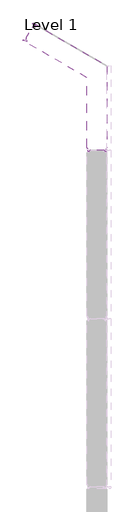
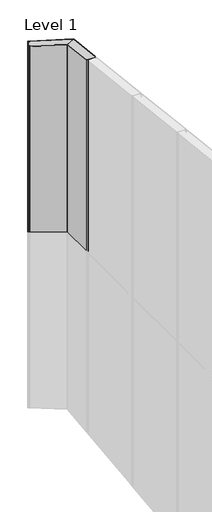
# One storey, part 13 of 16: 1 plate.
"""IFC4 building model written with IfcOpenShell, lengths in millimetres."""

from ifc_helpers import new_model, si_unit, frame, origin, place, context, project, spatial, polyline, circle_curve, ellipse_curve, element, save
from ifc_brep_helpers import plane_surface, cylinder_surface, revolved_surface, advanced_brep

model = new_model("IFC4")

# Units and contexts
model_context = context("Model", 3, world=origin())
ifc_project = project(units=[si_unit("LENGTHUNIT", "METRE", prefix="MILLI")], contexts=[model_context])

# Site, building, storey
site = spatial("IfcSite", under=ifc_project)
building = spatial("IfcBuilding", under=site)
storey = spatial("IfcBuildingStorey", under=building, Name="Level 1", Elevation=0.0)

# Plate
placement = place(None, origin())
element("IfcPlate", 1, ObjectType="TR_C_V_FTV_Corner_Long_B : 120/RAL9006/RAL9002", at=placement, inside=storey, context=model_context, shape_type="AdvancedBrep", body=[
    advanced_brep(
    [(-97.2285384, 7469.8069107, 3000.0), (-93.1155057, 7469.8069107, 3000.0), (-93.1155057, 7469.0069107, 3000.0), (-97.2285384, 7469.0069107, 3000.0), (-100.9215675, 7465.9080913, 3000.0), (-101.6648805, 7461.6925541, 3000.0), (-108.1155057, 7462.2569107, 3000.0), (-108.1155057, 7477.0069107, 3000.0), (-108.8477387, 7478.7746776, 3000.0), (-113.236826, 7483.1637649, 3000.0), (-114.1155057, 7485.2850853, 3000.0), (-114.1155057, 7900.3248798, 3000.0), (-113.3155057, 7900.78676, 3000.0), (-113.3155057, 7485.2850853, 3000.0), (-112.6711406, 7483.7294503, 3000.0), (-108.2820533, 7479.340363, 3000.0), (-107.3155057, 7477.0069107, 3000.0), (-107.3155057, 7462.2569107, 3000.0), (-102.4527267, 7461.8314726, 3000.0), (-101.7094137, 7466.0470099, 3000.0), (-101.7094137, 7466.0470099, 5587.3906863), (-97.2285384, 7469.8069107, 5586.9534885), (-102.4527267, 7461.8314726, 5587.8808651), (-107.3155057, 7462.2569107, 5587.8313955), (-107.3155057, 7477.0069107, 5586.1162792), (-108.2820533, 7479.340363, 5585.8449476), (-112.6711406, 7483.7294503, 5585.3345886), (-113.3155057, 7485.2850853, 5585.1537008), (-113.3155057, 7900.78676, 5536.8395526), (-114.1155057, 7485.2850853, 5585.1537008), (-114.1155057, 7900.3248798, 5536.8932596), (-113.236826, 7483.1637649, 5585.400366), (-108.8477387, 7478.7746776, 5585.9107249), (-108.1155057, 7477.0069107, 5586.1162792), (-108.1155057, 7462.2569107, 5587.8313955), (-101.6648805, 7461.6925541, 5587.8970184), (-100.9215675, 7465.9080913, 5587.4068396), (-97.2285384, 7469.0069107, 5587.0465118), (-93.1155057, 7469.0069107, 5587.0465118), (-93.1155057, 7469.8069107, 5586.9534885)],
    [
        (0, 1),
        (1, 2),
        (2, 3),
        (3, 4, circle_curve(frame((-97.2285384, 7465.2569107, 3000.0), z_axis=(0.0, 0.0, 1.0), x_axis=(0.0, -1.0, 0.0)), 3.75)),
        (4, 5),
        (5, 6, circle_curve(frame((-104.8655057, 7462.2569107, 3000.0), z_axis=(0.0, 0.0, -1.0), x_axis=(0.0, -1.0, 0.0)), 3.25)),
        (6, 7),
        (7, 8, circle_curve(frame((-110.6155057, 7477.0069107, 3000.0), z_axis=(0.0, 0.0, 1.0), x_axis=(0.0, -1.0, 0.0)), 2.5)),
        (8, 9),
        (9, 10, circle_curve(frame((-111.1155057, 7485.2850853, 3000.0), z_axis=(0.0, 0.0, -1.0), x_axis=(0.0, -1.0, 0.0)), 3.0)),
        (10, 11),
        (11, 12),
        (12, 13),
        (13, 14, circle_curve(frame((-111.1155057, 7485.2850853, 3000.0), z_axis=(0.0, 0.0, 1.0), x_axis=(0.0, -1.0, 0.0)), 2.2)),
        (14, 15),
        (15, 16, circle_curve(frame((-110.6155057, 7477.0069107, 3000.0), z_axis=(0.0, 0.0, -1.0), x_axis=(0.0, -1.0, 0.0)), 3.3)),
        (16, 17),
        (17, 18, circle_curve(frame((-104.8655057, 7462.2569107, 3000.0), z_axis=(0.0, 0.0, 1.0), x_axis=(0.0, -1.0, 0.0)), 2.45)),
        (18, 19),
        (19, 0, circle_curve(frame((-97.2285384, 7465.2569107, 3000.0), z_axis=(0.0, 0.0, -1.0), x_axis=(0.0, -1.0, 0.0)), 4.55)),
        (19, 20),
        (20, 21, ellipse_curve(frame((-97.2285384, 7465.2569107, 5587.4825583), z_axis=(0.0, -0.1155008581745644, -0.9933073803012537), x_axis=(0.0, -0.9933073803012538, 0.11550085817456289)), 4.5806566, 4.55)),
        (21, 0),
        (18, 22),
        (22, 20),
        (17, 23),
        (23, 22, ellipse_curve(frame((-104.8655057, 7462.2569107, 5587.8313955), z_axis=(0.0, 0.1155008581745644, 0.9933073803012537), x_axis=(0.0, 0.9933073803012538, -0.11550085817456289)), 2.4665074, 2.45)),
        (16, 24),
        (24, 23),
        (15, 25),
        (25, 24, ellipse_curve(frame((-110.6155057, 7477.0069107, 5586.1162792), z_axis=(0.0, -0.1155008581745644, -0.9933073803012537), x_axis=(0.0, -0.9933073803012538, 0.11550085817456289)), 3.3222345, 3.3)),
        (14, 26),
        (26, 25),
        (13, 27),
        (27, 26, ellipse_curve(frame((-111.1155057, 7485.2850853, 5585.1537008), z_axis=(0.0, 0.1155008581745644, 0.9933073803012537), x_axis=(0.0, 0.9933073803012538, -0.11550085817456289)), 2.214823, 2.2)),
        (12, 28),
        (28, 27),
        (10, 29),
        (29, 30),
        (30, 11),
        (9, 31),
        (31, 29, ellipse_curve(frame((-111.1155057, 7485.2850853, 5585.1537008), z_axis=(0.0, -0.1155008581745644, -0.9933073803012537), x_axis=(0.0, -0.9933073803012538, 0.11550085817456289)), 3.0202131, 3.0)),
        (8, 32),
        (32, 31),
        (7, 33),
        (33, 32, ellipse_curve(frame((-110.6155057, 7477.0069107, 5586.1162792), z_axis=(0.0, 0.1155008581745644, 0.9933073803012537), x_axis=(0.0, 0.9933073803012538, -0.11550085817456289)), 2.5168443, 2.5)),
        (6, 34),
        (34, 33),
        (5, 35),
        (35, 34, ellipse_curve(frame((-104.8655057, 7462.2569107, 5587.8313955), z_axis=(0.0, -0.1155008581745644, -0.9933073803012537), x_axis=(0.0, -0.9933073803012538, 0.11550085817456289)), 3.2718976, 3.25)),
        (4, 36),
        (36, 35),
        (3, 37),
        (37, 36, ellipse_curve(frame((-97.2285384, 7465.2569107, 5587.4825583), z_axis=(0.0, 0.1155008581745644, 0.9933073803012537), x_axis=(0.0, 0.9933073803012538, -0.11550085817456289)), 3.7752664, 3.75)),
        (2, 38),
        (38, 37),
        (1, 39),
        (39, 38),
        (21, 39),
        (30, 28),
    ],
    [
        plane_surface(frame((-97.2285384, 7460.7069107, 3000.0), z_axis=(0.0, 0.0, -1.0), x_axis=(-1.0, 0.0, 0.0))),
        cylinder_surface(frame((-97.2285384, 7465.2569107, 3000.0), z_axis=(0.0, 0.0, 1.0), x_axis=(0.0, -1.0, 0.0)), 4.55),
        plane_surface(frame((-101.7094137, 7466.0470099, 5980.0), z_axis=(-0.9848077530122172, 0.1736481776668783, 0.0), x_axis=(0.0, 0.0, -1.0))),
        revolved_surface(polyline([(-104.8655057, 7459.8069107, 3000.0), (-104.8655057, 7459.8069107, 5588.1162792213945)]), (-104.8655057, 7462.2569107, 3000.0), (0.0, 0.0, -1.0)),
        plane_surface(frame((-107.3155057, 7462.2569107, 5980.0), z_axis=(1.0, 0.0, 0.0), x_axis=(0.0, 0.0, -1.0))),
        cylinder_surface(frame((-110.6155057, 7477.0069107, 3000.0), z_axis=(0.0, 0.0, 1.0), x_axis=(0.0, -1.0, 0.0)), 3.3),
        plane_surface(frame((-108.2820533, 7479.340363, 5980.0), z_axis=(0.7071067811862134, 0.7071067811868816, 0.0), x_axis=(0.0, 0.0, -1.0))),
        revolved_surface(polyline([(-111.1155057, 7483.0850853, 3000.0), (-111.1155057, 7483.0850853, 5585.409514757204)]), (-111.1155057, 7485.2850853, 3000.0), (0.0, 0.0, -1.0)),
        plane_surface(frame((-113.3155057, 7485.2850853, 5980.0), z_axis=(1.0, 0.0, 0.0), x_axis=(0.0, 0.0, -1.0))),
        plane_surface(frame((-114.1155057, 7900.3248798, 5980.0), z_axis=(-1.0, 0.0, 0.0), x_axis=(0.0, 0.0, -1.0))),
        cylinder_surface(frame((-111.1155057, 7485.2850853, 3000.0), z_axis=(0.0, 0.0, 1.0), x_axis=(0.0, -1.0, 0.0)), 3.0),
        plane_surface(frame((-113.236826, 7483.1637649, 5980.0), z_axis=(-0.7071067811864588, -0.7071067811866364, 0.0), x_axis=(0.0, 0.0, -1.0))),
        revolved_surface(polyline([(-110.6155057, 7474.5069107, 3000.0), (-110.6155057, 7474.5069107, 5586.406976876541)]), (-110.6155057, 7477.0069107, 3000.0), (0.0, 0.0, -1.0)),
        plane_surface(frame((-108.1155057, 7477.0069107, 5980.0), z_axis=(-1.0, 0.0, 0.0), x_axis=(0.0, 0.0, -1.0))),
        cylinder_surface(frame((-104.8655057, 7462.2569107, 3000.0), z_axis=(0.0, 0.0, 1.0), x_axis=(0.0, -1.0, 0.0)), 3.25),
        plane_surface(frame((-101.6648805, 7461.6925541, 5980.0), z_axis=(0.9848077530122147, -0.17364817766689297, 0.0), x_axis=(0.0, 0.0, -1.0))),
        revolved_surface(polyline([(-97.2285384, 7461.5069107, 3000.0), (-97.2285384, 7461.5069107, 5587.918604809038)]), (-97.2285384, 7465.2569107, 3000.0), (0.0, 0.0, -1.0)),
        plane_surface(frame((-97.2285384, 7469.0069107, 5980.0), z_axis=(0.0, -1.0, 0.0), x_axis=(0.0, 0.0, -1.0))),
        plane_surface(frame((-93.1155057, 7469.0069107, 5980.0), z_axis=(1.0, 0.0, 0.0), x_axis=(0.0, 0.0, -1.0))),
        plane_surface(frame((-93.1155057, 7469.8069107, 5980.0), z_axis=(0.0, 1.0, 0.0), x_axis=(0.0, 0.0, -1.0))),
        plane_surface(frame((-113.3155057, 7900.78676, 5980.0), z_axis=(-0.499999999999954, 0.8660254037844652, 0.0), x_axis=(0.0, 0.0, -1.0))),
        plane_surface(frame((5.8844943, 6239.6069121, 5730.0), z_axis=(0.0, 0.1155008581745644, 0.9933073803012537), x_axis=(0.0, -0.9933073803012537, 0.1155008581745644))),
    ],
    [
        (0, [[1, 2, 3, 4, 5, 6, 7, 8, 9, 10, 11, 12, 13, 14, 15, 16, 17, 18, 19, 20]]),
        (1, [[-20, 21, 22, 23]]),
        (2, [[-19, 24, 25, -21]]),
        (3, [[-18, 26, 27, -24]]),
        (4, [[-17, 28, 29, -26]]),
        (5, [[-16, 30, 31, -28]]),
        (6, [[-15, 32, 33, -30]]),
        (7, [[-14, 34, 35, -32]]),
        (8, [[-13, 36, 37, -34]]),
        (9, [[-11, 38, 39, 40]]),
        (10, [[-10, 41, 42, -38]]),
        (11, [[-9, 43, 44, -41]]),
        (12, [[-8, 45, 46, -43]]),
        (13, [[-7, 47, 48, -45]]),
        (14, [[-6, 49, 50, -47]]),
        (15, [[-5, 51, 52, -49]]),
        (16, [[-4, 53, 54, -51]]),
        (17, [[-3, 55, 56, -53]]),
        (18, [[-2, 57, 58, -55]]),
        (19, [[-1, -23, 59, -57]]),
        (20, [[-12, -40, 60, -36]]),
        (21, [[-22, -25, -27, -29, -31, -33, -35, -37, -60, -39, -42, -44, -46, -48, -50, -52, -54, -56, -58, -59]]),
    ],
),
    advanced_brep(
    [(-11.0024729, 7469.8069108, 3000.0), (-6.5215976, 7466.04701, 3000.0), (-5.7782846, 7461.8314728, 3000.0), (-0.9155057, 7462.2569108, 3000.0), (-0.9155057, 7477.0069108, 3000.0), (0.051042, 7479.3403632, 3000.0), (4.4401293, 7483.7294505, 3000.0), (5.0844943, 7485.2850854, 3000.0), (5.0844943, 7969.1450319, 3000.0), (5.8844943, 7969.606912, 3000.0), (5.8844943, 7485.2850854, 3000.0), (5.0058147, 7483.1637651, 3000.0), (0.6167274, 7478.7746778, 3000.0), (-0.1155057, 7477.0069108, 3000.0), (-0.1155057, 7462.2569108, 3000.0), (-6.5661308, 7461.6925542, 3000.0), (-7.3094438, 7465.9080915, 3000.0), (-11.0024729, 7469.0069108, 3000.0), (-15.1155057, 7469.0069108, 3000.0), (-15.1155057, 7469.8069108, 3000.0), (-15.1155057, 7469.8069108, 5586.9534885), (-11.0024729, 7469.8069108, 5586.9534885), (-15.1155057, 7469.0069108, 5587.0465118), (-11.0024729, 7469.0069108, 5587.0465118), (-7.3094438, 7465.9080915, 5587.4068396), (-6.5661308, 7461.6925542, 5587.8970184), (-0.1155057, 7462.2569108, 5587.8313955), (-0.1155057, 7477.0069108, 5586.1162792), (0.6167274, 7478.7746778, 5585.9107249), (5.0058147, 7483.1637651, 5585.4003659), (5.8844943, 7485.2850854, 5585.1537008), (5.8844943, 7969.606912, 5528.8372093), (5.0844943, 7969.1450319, 5528.8909163), (5.0844943, 7485.2850854, 5585.1537008), (4.4401293, 7483.7294505, 5585.3345886), (0.051042, 7479.3403632, 5585.8449476), (-0.9155057, 7477.0069108, 5586.1162792), (-0.9155057, 7462.2569108, 5587.8313955), (-5.7782846, 7461.8314728, 5587.880865), (-6.5215976, 7466.04701, 5587.3906863)],
    [
        (0, 1, circle_curve(frame((-11.0024729, 7465.2569108, 3000.0), z_axis=(0.0, 0.0, -1.0), x_axis=(0.0, -1.0, 0.0)), 4.55)),
        (1, 2),
        (2, 3, circle_curve(frame((-3.3655057, 7462.2569108, 3000.0), z_axis=(0.0, 0.0, 1.0), x_axis=(0.0, -1.0, 0.0)), 2.45)),
        (3, 4),
        (4, 5, circle_curve(frame((2.3844943, 7477.0069108, 3000.0), z_axis=(0.0, 0.0, -1.0), x_axis=(0.0, -1.0, 0.0)), 3.3)),
        (5, 6),
        (6, 7, circle_curve(frame((2.8844943, 7485.2850854, 3000.0), z_axis=(0.0, 0.0, 1.0), x_axis=(0.0, -1.0, 0.0)), 2.2)),
        (7, 8),
        (8, 9),
        (9, 10),
        (10, 11, circle_curve(frame((2.8844943, 7485.2850854, 3000.0), z_axis=(0.0, 0.0, -1.0), x_axis=(0.0, -1.0, 0.0)), 3.0)),
        (11, 12),
        (12, 13, circle_curve(frame((2.3844943, 7477.0069108, 3000.0), z_axis=(0.0, 0.0, 1.0), x_axis=(0.0, -1.0, 0.0)), 2.5)),
        (13, 14),
        (14, 15, circle_curve(frame((-3.3655057, 7462.2569108, 3000.0), z_axis=(0.0, 0.0, -1.0), x_axis=(0.0, -1.0, 0.0)), 3.25)),
        (15, 16),
        (16, 17, circle_curve(frame((-11.0024729, 7465.2569108, 3000.0), z_axis=(0.0, 0.0, 1.0), x_axis=(0.0, -1.0, 0.0)), 3.75)),
        (17, 18),
        (18, 19),
        (19, 0),
        (19, 20),
        (20, 21),
        (21, 0),
        (18, 22),
        (22, 20),
        (17, 23),
        (23, 22),
        (16, 24),
        (24, 23, ellipse_curve(frame((-11.0024729, 7465.2569108, 5587.4825583), z_axis=(0.0, 0.1155008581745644, 0.9933073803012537), x_axis=(0.0, 0.9933073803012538, -0.11550085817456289)), 3.7752664, 3.75)),
        (15, 25),
        (25, 24),
        (14, 26),
        (26, 25, ellipse_curve(frame((-3.3655057, 7462.2569108, 5587.8313955), z_axis=(0.0, -0.1155008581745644, -0.9933073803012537), x_axis=(0.0, -0.9933073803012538, 0.11550085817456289)), 3.2718976, 3.25)),
        (13, 27),
        (27, 26),
        (12, 28),
        (28, 27, ellipse_curve(frame((2.3844943, 7477.0069108, 5586.1162792), z_axis=(0.0, 0.1155008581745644, 0.9933073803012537), x_axis=(0.0, 0.9933073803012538, -0.11550085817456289)), 2.5168443, 2.5)),
        (11, 29),
        (29, 28),
        (10, 30),
        (30, 29, ellipse_curve(frame((2.8844943, 7485.2850854, 5585.1537008), z_axis=(0.0, -0.1155008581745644, -0.9933073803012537), x_axis=(0.0, -0.9933073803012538, 0.11550085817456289)), 3.0202131, 3.0)),
        (9, 31),
        (31, 30),
        (8, 32),
        (32, 31),
        (7, 33),
        (33, 32),
        (6, 34),
        (34, 33, ellipse_curve(frame((2.8844943, 7485.2850854, 5585.1537008), z_axis=(0.0, 0.1155008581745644, 0.9933073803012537), x_axis=(0.0, 0.9933073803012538, -0.11550085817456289)), 2.214823, 2.2)),
        (5, 35),
        (35, 34),
        (4, 36),
        (36, 35, ellipse_curve(frame((2.3844943, 7477.0069108, 5586.1162792), z_axis=(0.0, -0.1155008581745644, -0.9933073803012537), x_axis=(0.0, -0.9933073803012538, 0.11550085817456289)), 3.3222345, 3.3)),
        (3, 37),
        (37, 36),
        (2, 38),
        (38, 37, ellipse_curve(frame((-3.3655057, 7462.2569108, 5587.8313955), z_axis=(0.0, 0.1155008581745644, 0.9933073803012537), x_axis=(0.0, 0.9933073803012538, -0.11550085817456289)), 2.4665074, 2.45)),
        (1, 39),
        (39, 38),
        (21, 39, ellipse_curve(frame((-11.0024729, 7465.2569108, 5587.4825583), z_axis=(0.0, -0.1155008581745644, -0.9933073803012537), x_axis=(0.0, -0.9933073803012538, 0.11550085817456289)), 4.5806566, 4.55)),
    ],
    [
        plane_surface(frame((-15.1155057, 7469.8069108, 3000.0), z_axis=(0.0, 0.0, -1.0), x_axis=(1.0, 0.0, 0.0))),
        plane_surface(frame((-11.0024729, 7469.8069108, 5980.0), z_axis=(0.0, 1.0, 0.0), x_axis=(0.0, 0.0, -1.0))),
        plane_surface(frame((-15.1155057, 7469.8069108, 5980.0), z_axis=(-1.0, 0.0, 0.0), x_axis=(0.0, 0.0, -1.0))),
        plane_surface(frame((-15.1155057, 7469.0069108, 5980.0), z_axis=(0.0, -1.0, 0.0), x_axis=(0.0, 0.0, -1.0))),
        revolved_surface(polyline([(-11.0024729, 7461.5069108, 3000.0), (-11.0024729, 7461.5069108, 5587.918604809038)]), (-11.0024729, 7465.2569108, 3000.0), (0.0, 0.0, -1.0)),
        plane_surface(frame((-7.3094438, 7465.9080915, 5980.0), z_axis=(-0.9848077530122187, -0.1736481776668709, 0.0), x_axis=(0.0, 0.0, -1.0))),
        cylinder_surface(frame((-3.3655057, 7462.2569108, 3000.0), z_axis=(0.0, 0.0, 1.0), x_axis=(0.0, -1.0, 0.0)), 3.25),
        plane_surface(frame((-0.1155057, 7462.2569108, 5980.0), z_axis=(1.0, 0.0, 0.0), x_axis=(0.0, 0.0, -1.0))),
        revolved_surface(polyline([(2.3844943, 7474.5069108, 3000.0), (2.3844943, 7474.5069108, 5586.406976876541)]), (2.3844943, 7477.0069108, 3000.0), (0.0, 0.0, -1.0)),
        plane_surface(frame((0.6167274, 7478.7746778, 5980.0), z_axis=(0.707106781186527, -0.7071067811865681, 0.0), x_axis=(0.0, 0.0, -1.0))),
        cylinder_surface(frame((2.8844943, 7485.2850854, 3000.0), z_axis=(0.0, 0.0, 1.0), x_axis=(0.0, -1.0, 0.0)), 3.0),
        plane_surface(frame((5.8844943, 7485.2850854, 5980.0), z_axis=(1.0, 0.0, 0.0), x_axis=(0.0, 0.0, -1.0))),
        plane_surface(frame((5.8844943, 7969.606912, 5980.0), z_axis=(-0.4999998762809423, 0.8660254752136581, 0.0), x_axis=(0.0, 0.0, -1.0))),
        plane_surface(frame((5.0844943, 7969.1450319, 5980.0), z_axis=(-1.0, 0.0, 0.0), x_axis=(0.0, 0.0, -1.0))),
        revolved_surface(polyline([(2.8844943, 7483.0850854, 3000.0), (2.8844943, 7483.0850854, 5585.409514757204)]), (2.8844943, 7485.2850854, 3000.0), (0.0, 0.0, -1.0)),
        plane_surface(frame((4.4401293, 7483.7294505, 5980.0), z_axis=(-0.7071067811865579, 0.7071067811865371, 0.0), x_axis=(0.0, 0.0, -1.0))),
        cylinder_surface(frame((2.3844943, 7477.0069108, 3000.0), z_axis=(0.0, 0.0, 1.0), x_axis=(0.0, -1.0, 0.0)), 3.3),
        plane_surface(frame((-0.9155057, 7477.0069108, 5980.0), z_axis=(-1.0, 0.0, 0.0), x_axis=(0.0, 0.0, -1.0))),
        revolved_surface(polyline([(-3.3655057, 7459.8069108, 3000.0), (-3.3655057, 7459.8069108, 5588.1162792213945)]), (-3.3655057, 7462.2569108, 3000.0), (0.0, 0.0, -1.0)),
        plane_surface(frame((-5.7782846, 7461.8314728, 5980.0), z_axis=(0.9848077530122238, 0.1736481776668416, 0.0), x_axis=(0.0, 0.0, -1.0))),
        cylinder_surface(frame((-11.0024729, 7465.2569108, 3000.0), z_axis=(0.0, 0.0, 1.0), x_axis=(0.0, -1.0, 0.0)), 4.55),
        plane_surface(frame((5.8844943, 6239.6069121, 5730.0), z_axis=(0.0, 0.1155008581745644, 0.9933073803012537), x_axis=(0.0, -0.9933073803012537, 0.1155008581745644))),
    ],
    [
        (0, [[1, 2, 3, 4, 5, 6, 7, 8, 9, 10, 11, 12, 13, 14, 15, 16, 17, 18, 19, 20]]),
        (1, [[-20, 21, 22, 23]]),
        (2, [[-19, 24, 25, -21]]),
        (3, [[-18, 26, 27, -24]]),
        (4, [[-17, 28, 29, -26]]),
        (5, [[-16, 30, 31, -28]]),
        (6, [[-15, 32, 33, -30]]),
        (7, [[-14, 34, 35, -32]]),
        (8, [[-13, 36, 37, -34]]),
        (9, [[-12, 38, 39, -36]]),
        (10, [[-11, 40, 41, -38]]),
        (11, [[-10, 42, 43, -40]]),
        (12, [[-9, 44, 45, -42]]),
        (13, [[-8, 46, 47, -44]]),
        (14, [[-7, 48, 49, -46]]),
        (15, [[-6, 50, 51, -48]]),
        (16, [[-5, 52, 53, -50]]),
        (17, [[-4, 54, 55, -52]]),
        (18, [[-3, 56, 57, -54]]),
        (19, [[-2, 58, 59, -56]]),
        (20, [[-1, -23, 60, -58]]),
        (21, [[-22, -25, -27, -29, -31, -33, -35, -37, -39, -41, -43, -45, -47, -49, -51, -53, -55, -57, -59, -60]]),
    ],
),
    advanced_brep(
    [(-434.5462864, 8203.5584202, 3000.0), (-430.0161156, 8205.2072676, 3000.0), (-424.2430182, 8203.1060319, 3000.0), (-421.3380487, 8209.3357591, 3000.0), (-436.5800958, 8218.1357591, 3000.0), (-436.1097929, 8221.708064, 3000.0), (-433.5612192, 8222.3909523, 3000.0), (-431.4744669, 8222.1162261, 3000.0), (5.8844945, 7969.6069121, 3000.0), (5.0844943, 7969.1450319, 3000.0), (-431.8744669, 8221.4234058, 3000.0), (-433.354164, 8221.6182116, 3000.0), (-435.9027377, 8220.9353234, 3000.0), (-436.1800958, 8218.8285794, 3000.0), (-420.9380487, 8210.0285794, 3000.0), (-424.5166343, 8202.3542778, 3000.0), (-430.2897318, 8204.4555135, 3000.0), (-433.8534661, 8203.1584202, 3000.0), (-435.5497456, 8200.2203781, 3000.0), (-436.2425659, 8200.6203781, 3000.0), (-436.2425659, 8200.6203781, 5501.9751784), (-434.5462864, 8203.5584202, 5501.6335456), (-435.5497456, 8200.2203781, 5502.02169), (-433.8534661, 8203.1584202, 5501.6800572), (-430.2897318, 8204.4555135, 5501.5292324), (-424.5166343, 8202.3542778, 5501.7735621), (-420.9380487, 8210.0285794, 5500.8812015), (-436.1800958, 8218.8285794, 5499.8579457), (-435.9027377, 8220.9353234, 5499.6129754), (-433.354164, 8221.6182116, 5499.5335698), (-431.8744669, 8221.4234058, 5499.5562217), (5.0844943, 7969.1450319, 5528.8909163), (5.8844945, 7969.6069121, 5528.8372093), (-431.4744669, 8222.1162261, 5499.4756612), (-433.5612192, 8222.3909523, 5499.4437163), (-436.1097929, 8221.708064, 5499.5231219), (-436.5800958, 8218.1357591, 5499.9385062), (-421.3380487, 8209.3357591, 5500.961762), (-424.2430182, 8203.1060319, 5501.6861489), (-430.0161156, 8205.2072676, 5501.4418191)],
    [
        (0, 1, circle_curve(frame((-431.2986912, 8201.6834202, 3000.0), z_axis=(0.0, 0.0, -1.0), x_axis=(-0.8660254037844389, 0.4999999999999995, 0.0)), 3.75)),
        (1, 2),
        (2, 3, circle_curve(frame((-423.0630487, 8206.3479715, 3000.0), z_axis=(0.0, 0.0, 1.0), x_axis=(-0.8660254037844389, 0.4999999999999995, 0.0)), 3.45)),
        (3, 4),
        (4, 5, circle_curve(frame((-435.6050958, 8219.8245087, 3000.0), z_axis=(0.0, 0.0, -1.0), x_axis=(-0.8660254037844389, 0.4999999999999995, 0.0)), 1.95)),
        (5, 6),
        (6, 7, circle_curve(frame((-432.8494669, 8219.7346563, 3000.0), z_axis=(0.0, 0.0, -1.0), x_axis=(-0.8660254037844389, 0.4999999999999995, 0.0)), 2.75)),
        (7, 8),
        (8, 9),
        (9, 10),
        (10, 11, circle_curve(frame((-432.8494669, 8219.7346563, 3000.0), z_axis=(0.0, 0.0, 1.0), x_axis=(-0.8660254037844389, 0.4999999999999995, 0.0)), 1.95)),
        (11, 12),
        (12, 13, circle_curve(frame((-435.6050958, 8219.8245087, 3000.0), z_axis=(0.0, 0.0, 1.0), x_axis=(-0.8660254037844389, 0.4999999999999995, 0.0)), 1.15)),
        (13, 14),
        (14, 15, circle_curve(frame((-423.0630487, 8206.3479715, 3000.0), z_axis=(0.0, 0.0, -1.0), x_axis=(-0.8660254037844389, 0.4999999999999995, 0.0)), 4.25)),
        (15, 16),
        (16, 17, circle_curve(frame((-431.2986912, 8201.6834202, 3000.0), z_axis=(0.0, 0.0, 1.0), x_axis=(-0.8660254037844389, 0.4999999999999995, 0.0)), 2.95)),
        (17, 18),
        (18, 19),
        (19, 0),
        (19, 20),
        (20, 21),
        (21, 0),
        (18, 22),
        (22, 20),
        (17, 23),
        (23, 22),
        (16, 24),
        (24, 23, ellipse_curve(frame((-431.2986912, 8201.6834202, 5501.8515688), z_axis=(0.0, 0.1155008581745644, 0.9933073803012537), x_axis=(0.0, 0.9933073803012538, -0.11550085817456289)), 2.9698763, 2.95)),
        (15, 25),
        (25, 24),
        (14, 26),
        (26, 25, ellipse_curve(frame((-423.0630487, 8206.3479715, 5501.3091791), z_axis=(0.0, -0.1155008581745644, -0.9933073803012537), x_axis=(0.0, -0.9933073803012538, 0.11550085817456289)), 4.2786353, 4.25)),
        (13, 27),
        (27, 26),
        (12, 28),
        (28, 27, ellipse_curve(frame((-435.6050958, 8219.8245087, 5499.7421399), z_axis=(0.0, 0.1155008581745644, 0.9933073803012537), x_axis=(0.0, 0.9933073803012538, -0.11550085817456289)), 1.1577484, 1.15)),
        (11, 29),
        (29, 28),
        (10, 30),
        (30, 29, ellipse_curve(frame((-432.8494669, 8219.7346563, 5499.7525879), z_axis=(0.0, 0.1155008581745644, 0.9933073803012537), x_axis=(0.0, 0.9933073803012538, -0.11550085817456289)), 1.9631385, 1.95)),
        (9, 31),
        (31, 30),
        (8, 32),
        (32, 31),
        (7, 33),
        (33, 32),
        (6, 34),
        (34, 33, ellipse_curve(frame((-432.8494669, 8219.7346563, 5499.7525879), z_axis=(0.0, -0.1155008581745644, -0.9933073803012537), x_axis=(0.0, -0.9933073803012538, 0.11550085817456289)), 2.7685287, 2.75)),
        (5, 35),
        (35, 34),
        (4, 36),
        (36, 35, ellipse_curve(frame((-435.6050958, 8219.8245087, 5499.7421399), z_axis=(0.0, -0.1155008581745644, -0.9933073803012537), x_axis=(0.0, -0.9933073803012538, 0.11550085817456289)), 1.9631385, 1.95)),
        (3, 37),
        (37, 36),
        (2, 38),
        (38, 37, ellipse_curve(frame((-423.0630487, 8206.3479715, 5501.3091791), z_axis=(0.0, 0.1155008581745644, 0.9933073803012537), x_axis=(0.0, 0.9933073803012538, -0.11550085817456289)), 3.4732451, 3.45)),
        (1, 39),
        (39, 38),
        (21, 39, ellipse_curve(frame((-431.2986912, 8201.6834202, 5501.8515688), z_axis=(0.0, -0.1155008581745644, -0.9933073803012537), x_axis=(0.0, -0.9933073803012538, 0.11550085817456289)), 3.7752664, 3.75)),
    ],
    [
        plane_surface(frame((-436.2425659, 8200.6203781, 3000.0), z_axis=(0.0, 0.0, -1.0), x_axis=(0.5000000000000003, 0.8660254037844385, 0.0))),
        plane_surface(frame((-434.5462864, 8203.5584202, 5980.0), z_axis=(-0.8660254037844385, 0.5000000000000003, 0.0), x_axis=(0.0, 0.0, -1.0))),
        plane_surface(frame((-436.2425659, 8200.6203781, 5980.0), z_axis=(-0.4999999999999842, -0.8660254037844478, 0.0), x_axis=(0.0, 0.0, -1.0))),
        plane_surface(frame((-435.5497456, 8200.2203781, 5980.0), z_axis=(0.8660254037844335, -0.500000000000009, 0.0), x_axis=(0.0, 0.0, -1.0))),
        revolved_surface(polyline([(-433.8534661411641, 8203.1584202, 3000.0), (-433.8534661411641, 8203.1584202, 5502.194592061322)]), (-431.2986912, 8201.6834202, 3000.0), (0.0, 0.0, -1.0)),
        plane_surface(frame((-430.2897318, 8204.4555135, 5980.0), z_axis=(-0.342020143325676, -0.9396926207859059, 0.0), x_axis=(0.0, 0.0, -1.0))),
        cylinder_surface(frame((-423.0630487, 8206.3479715, 3000.0), z_axis=(0.0, 0.0, 1.0), x_axis=(-0.8660254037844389, 0.4999999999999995, 0.0)), 4.25),
        plane_surface(frame((-420.9380487, 8210.0285794, 5980.0), z_axis=(0.4999999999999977, 0.86602540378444, 0.0), x_axis=(0.0, 0.0, -1.0))),
        revolved_surface(polyline([(-436.6010250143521, 8220.3995087, 3000.0), (-436.6010250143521, 8220.3995087, 5499.87586083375)]), (-435.6050958, 8219.8245087, 3000.0), (0.0, 0.0, -1.0)),
        plane_surface(frame((-435.9027377, 8220.9353234, 5980.0), z_axis=(0.2588190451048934, -0.9659258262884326, 0.0), x_axis=(0.0, 0.0, -1.0))),
        revolved_surface(polyline([(-434.5382164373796, 8220.7096563, 3000.0), (-434.5382164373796, 8220.7096563, 5499.979332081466)]), (-432.8494669, 8219.7346563, 3000.0), (0.0, 0.0, -1.0)),
        plane_surface(frame((-431.8744669, 8221.4234058, 5980.0), z_axis=(-0.4999999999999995, -0.8660254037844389, 0.0), x_axis=(0.0, 0.0, -1.0))),
        plane_surface(frame((5.0844943, 7969.1450319, 5980.0), z_axis=(0.4999998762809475, -0.8660254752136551, 0.0), x_axis=(0.0, 0.0, -1.0))),
        plane_surface(frame((5.8844945, 7969.6069121, 5980.0), z_axis=(0.5000000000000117, 0.866025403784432, 0.0), x_axis=(0.0, 0.0, -1.0))),
        cylinder_surface(frame((-432.8494669, 8219.7346563, 3000.0), z_axis=(0.0, 0.0, 1.0), x_axis=(-0.8660254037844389, 0.4999999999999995, 0.0)), 2.75),
        plane_surface(frame((-433.5612192, 8222.3909523, 5980.0), z_axis=(-0.25881904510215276, 0.965925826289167, 0.0), x_axis=(0.0, 0.0, -1.0))),
        cylinder_surface(frame((-435.6050958, 8219.8245087, 3000.0), z_axis=(0.0, 0.0, 1.0), x_axis=(-0.8660254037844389, 0.4999999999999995, 0.0)), 1.95),
        plane_surface(frame((-436.5800958, 8218.1357591, 5980.0), z_axis=(-0.5000000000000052, -0.8660254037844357, 0.0), x_axis=(0.0, 0.0, -1.0))),
        revolved_surface(polyline([(-426.05083634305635, 8208.0729715, 3000.0), (-426.05083634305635, 8208.0729715, 5501.7103418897)]), (-423.0630487, 8206.3479715, 3000.0), (0.0, 0.0, -1.0)),
        plane_surface(frame((-424.2430182, 8203.1060319, 5980.0), z_axis=(0.34202014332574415, 0.939692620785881, 0.0), x_axis=(0.0, 0.0, -1.0))),
        cylinder_surface(frame((-431.2986912, 8201.6834202, 3000.0), z_axis=(0.0, 0.0, 1.0), x_axis=(-0.8660254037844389, 0.4999999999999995, 0.0)), 3.75),
        plane_surface(frame((5.8844943, 6239.6069121, 5730.0), z_axis=(0.0, 0.1155008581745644, 0.9933073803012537), x_axis=(0.0, -0.9933073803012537, 0.1155008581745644))),
    ],
    [
        (0, [[1, 2, 3, 4, 5, 6, 7, 8, 9, 10, 11, 12, 13, 14, 15, 16, 17, 18, 19, 20]]),
        (1, [[-20, 21, 22, 23]]),
        (2, [[-19, 24, 25, -21]]),
        (3, [[-18, 26, 27, -24]]),
        (4, [[-17, 28, 29, -26]]),
        (5, [[-16, 30, 31, -28]]),
        (6, [[-15, 32, 33, -30]]),
        (7, [[-14, 34, 35, -32]]),
        (8, [[-13, 36, 37, -34]]),
        (9, [[-12, 38, 39, -36]]),
        (10, [[-11, 40, 41, -38]]),
        (11, [[-10, 42, 43, -40]]),
        (12, [[-9, 44, 45, -42]]),
        (13, [[-8, 46, 47, -44]]),
        (14, [[-7, 48, 49, -46]]),
        (15, [[-6, 50, 51, -48]]),
        (16, [[-5, 52, 53, -50]]),
        (17, [[-4, 54, 55, -52]]),
        (18, [[-3, 56, 57, -54]]),
        (19, [[-2, 58, 59, -56]]),
        (20, [[-1, -23, 60, -58]]),
        (21, [[-22, -25, -27, -29, -31, -33, -35, -37, -39, -41, -43, -45, -47, -49, -51, -53, -55, -57, -59, -60]]),
    ],
),
    advanced_brep(
    [(-476.9388453, 8130.1323544, 3000.0), (-475.2425659, 8133.0703966, 3000.0), (-474.5497456, 8132.6703966, 3000.0), (-476.246025, 8129.7323544, 3000.0), (-475.5874735, 8125.9975233, 3000.0), (-470.8812013, 8122.048492, 3000.0), (-475.7380487, 8115.1121952, 3000.0), (-490.9800958, 8123.9121952, 3000.0), (-492.6659105, 8122.6186241, 3000.0), (-491.9830222, 8120.0700504, 3000.0), (-491.0744669, 8118.885998, 3000.0), (-113.3155057, 7900.78676, 3000.0), (-114.1155057, 7900.3248798, 3000.0), (-491.4744669, 8118.1931777, 3000.0), (-492.7557629, 8119.8629952, 3000.0), (-493.4386512, 8122.4115688, 3000.0), (-490.5800958, 8124.6050155, 3000.0), (-475.3380487, 8115.8050155, 3000.0), (-471.3954314, 8121.4356565, 3000.0), (-476.1017036, 8125.3846877, 3000.0), (-476.1017036, 8125.3846877, 5510.7235145), (-476.9388453, 8130.1323544, 5510.1714602), (-471.3954314, 8121.4356565, 5511.1827041), (-475.3380487, 8115.8050155, 5511.8374298), (-490.5800958, 8124.6050155, 5510.814174), (-493.4386512, 8122.4115688, 5511.069226), (-492.7557629, 8119.8629952, 5511.3655717), (-491.4744669, 8118.1931777, 5511.5597366), (-114.1155057, 7900.3248798, 5536.8932596), (-113.3155057, 7900.78676, 5536.8395526), (-491.0744669, 8118.885998, 5511.4791761), (-491.9830222, 8120.0700504, 5511.3414956), (-492.6659105, 8122.6186241, 5511.0451498), (-490.9800958, 8123.9121952, 5510.8947345), (-475.7380487, 8115.1121952, 5511.9179903), (-470.8812013, 8122.048492, 5511.1114442), (-475.5874735, 8125.9975233, 5510.6522545), (-476.246025, 8129.7323544, 5510.2179718), (-474.5497456, 8132.6703966, 5509.876339), (-475.2425659, 8133.0703966, 5509.8298274)],
    [
        (0, 1),
        (1, 2),
        (2, 3),
        (3, 4, circle_curve(frame((-473.6912501, 8128.2573544, 3000.0), z_axis=(0.0, 0.0, 1.0), x_axis=(-0.8660254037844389, 0.49999999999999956, 0.0)), 2.95)),
        (4, 5),
        (5, 6, circle_curve(frame((-473.6130487, 8118.7928032, 3000.0), z_axis=(0.0, 0.0, -1.0), x_axis=(-0.8660254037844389, 0.49999999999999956, 0.0)), 4.25)),
        (6, 7),
        (7, 8, circle_curve(frame((-491.5550958, 8122.916266, 3000.0), z_axis=(0.0, 0.0, 1.0), x_axis=(-0.8660254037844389, 0.49999999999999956, 0.0)), 1.15)),
        (8, 9),
        (9, 10, circle_curve(frame((-490.0994669, 8120.5747475, 3000.0), z_axis=(0.0, 0.0, 1.0), x_axis=(-0.8660254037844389, 0.49999999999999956, 0.0)), 1.95)),
        (10, 11),
        (11, 12),
        (12, 13),
        (13, 14, circle_curve(frame((-490.0994669, 8120.5747475, 3000.0), z_axis=(0.0, 0.0, -1.0), x_axis=(-0.8660254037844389, 0.49999999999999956, 0.0)), 2.75)),
        (14, 15),
        (15, 16, circle_curve(frame((-491.5550958, 8122.916266, 3000.0), z_axis=(0.0, 0.0, -1.0), x_axis=(-0.8660254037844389, 0.49999999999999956, 0.0)), 1.95)),
        (16, 17),
        (17, 18, circle_curve(frame((-473.6130487, 8118.7928032, 3000.0), z_axis=(0.0, 0.0, 1.0), x_axis=(-0.8660254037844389, 0.49999999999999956, 0.0)), 3.45)),
        (18, 19),
        (19, 0, circle_curve(frame((-473.6912501, 8128.2573544, 3000.0), z_axis=(0.0, 0.0, -1.0), x_axis=(-0.8660254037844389, 0.49999999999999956, 0.0)), 3.75)),
        (19, 20),
        (20, 21, ellipse_curve(frame((-473.6912501, 8128.2573544, 5510.3894835), z_axis=(0.0, -0.1155008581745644, -0.9933073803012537), x_axis=(0.0, -0.9933073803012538, 0.11550085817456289)), 3.7752664, 3.75)),
        (21, 0),
        (18, 22),
        (22, 20),
        (17, 23),
        (23, 22, ellipse_curve(frame((-473.6130487, 8118.7928032, 5511.4900127), z_axis=(0.0, 0.1155008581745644, 0.9933073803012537), x_axis=(0.0, 0.9933073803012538, -0.11550085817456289)), 3.4732451, 3.45)),
        (16, 24),
        (24, 23),
        (15, 25),
        (25, 24, ellipse_curve(frame((-491.5550958, 8122.916266, 5511.0105403), z_axis=(0.0, -0.1155008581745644, -0.9933073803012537), x_axis=(0.0, -0.9933073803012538, 0.11550085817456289)), 1.9631385, 1.95)),
        (14, 26),
        (26, 25),
        (13, 27),
        (27, 26, ellipse_curve(frame((-490.0994669, 8120.5747475, 5511.2828098), z_axis=(0.0, -0.1155008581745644, -0.9933073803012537), x_axis=(0.0, -0.9933073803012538, 0.11550085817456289)), 2.7685287, 2.75)),
        (12, 28),
        (28, 27),
        (11, 29),
        (29, 28),
        (10, 30),
        (30, 29),
        (9, 31),
        (31, 30, ellipse_curve(frame((-490.0994669, 8120.5747475, 5511.2828098), z_axis=(0.0, 0.1155008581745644, 0.9933073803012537), x_axis=(0.0, 0.9933073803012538, -0.11550085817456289)), 1.9631385, 1.95)),
        (8, 32),
        (32, 31),
        (7, 33),
        (33, 32, ellipse_curve(frame((-491.5550958, 8122.916266, 5511.0105403), z_axis=(0.0, 0.1155008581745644, 0.9933073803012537), x_axis=(0.0, 0.9933073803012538, -0.11550085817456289)), 1.1577484, 1.15)),
        (6, 34),
        (34, 33),
        (5, 35),
        (35, 34, ellipse_curve(frame((-473.6130487, 8118.7928032, 5511.4900127), z_axis=(0.0, -0.1155008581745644, -0.9933073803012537), x_axis=(0.0, -0.9933073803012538, 0.11550085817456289)), 4.2786353, 4.25)),
        (4, 36),
        (36, 35),
        (3, 37),
        (37, 36, ellipse_curve(frame((-473.6912501, 8128.2573544, 5510.3894835), z_axis=(0.0, 0.1155008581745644, 0.9933073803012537), x_axis=(0.0, 0.9933073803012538, -0.11550085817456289)), 2.9698763, 2.95)),
        (2, 38),
        (38, 37),
        (1, 39),
        (39, 38),
        (21, 39),
    ],
    [
        plane_surface(frame((-476.9388453, 8130.1323544, 3000.0), z_axis=(0.0, 0.0, -1.0), x_axis=(0.49999999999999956, 0.8660254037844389, 0.0))),
        cylinder_surface(frame((-473.6912501, 8128.2573544, 3000.0), z_axis=(0.0, 0.0, 1.0), x_axis=(-0.8660254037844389, 0.49999999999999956, 0.0)), 3.75),
        plane_surface(frame((-476.1017036, 8125.3846877, 5980.0), z_axis=(-0.6427876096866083, -0.7660444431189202, 0.0), x_axis=(0.0, 0.0, -1.0))),
        revolved_surface(polyline([(-476.6008363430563, 8120.5178032, 3000.0), (-476.6008363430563, 8120.5178032, 5511.891175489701)]), (-473.6130487, 8118.7928032, 3000.0), (0.0, 0.0, -1.0)),
        plane_surface(frame((-475.3380487, 8115.8050155, 5980.0), z_axis=(0.5000000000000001, 0.8660254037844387, 0.0), x_axis=(0.0, 0.0, -1.0))),
        cylinder_surface(frame((-491.5550958, 8122.916266, 3000.0), z_axis=(0.0, 0.0, 1.0), x_axis=(-0.8660254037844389, 0.49999999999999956, 0.0)), 1.95),
        plane_surface(frame((-493.4386512, 8122.4115688, 5980.0), z_axis=(-0.9659258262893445, -0.2588190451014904, 0.0), x_axis=(0.0, 0.0, -1.0))),
        cylinder_surface(frame((-490.0994669, 8120.5747475, 3000.0), z_axis=(0.0, 0.0, 1.0), x_axis=(-0.8660254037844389, 0.49999999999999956, 0.0)), 2.75),
        plane_surface(frame((-491.4744669, 8118.1931777, 5980.0), z_axis=(-0.5000000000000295, -0.8660254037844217, 0.0), x_axis=(0.0, 0.0, -1.0))),
        plane_surface(frame((-114.1155057, 7900.3248798, 5980.0), z_axis=(0.49999999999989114, -0.8660254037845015, 0.0), x_axis=(0.0, 0.0, -1.0))),
        plane_surface(frame((-113.3155057, 7900.78676, 5980.0), z_axis=(0.4999999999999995, 0.8660254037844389, 0.0), x_axis=(0.0, 0.0, -1.0))),
        revolved_surface(polyline([(-491.7882164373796, 8121.5497475, 3000.0), (-491.7882164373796, 8121.5497475, 5511.509553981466)]), (-490.0994669, 8120.5747475, 3000.0), (0.0, 0.0, -1.0)),
        plane_surface(frame((-491.9830222, 8120.0700504, 5980.0), z_axis=(0.9659258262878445, 0.2588190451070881, 0.0), x_axis=(0.0, 0.0, -1.0))),
        revolved_surface(polyline([(-492.5510250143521, 8123.491266, 3000.0), (-492.5510250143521, 8123.491266, 5511.1442612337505)]), (-491.5550958, 8122.916266, 3000.0), (0.0, 0.0, -1.0)),
        plane_surface(frame((-490.9800958, 8123.9121952, 5980.0), z_axis=(-0.4999999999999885, -0.8660254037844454, 0.0), x_axis=(0.0, 0.0, -1.0))),
        cylinder_surface(frame((-473.6130487, 8118.7928032, 3000.0), z_axis=(0.0, 0.0, 1.0), x_axis=(-0.8660254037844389, 0.49999999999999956, 0.0)), 4.25),
        plane_surface(frame((-470.8812013, 8122.048492, 5980.0), z_axis=(0.6427876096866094, 0.7660444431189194, 0.0), x_axis=(0.0, 0.0, -1.0))),
        revolved_surface(polyline([(-476.2460250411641, 8129.7323544, 3000.0), (-476.2460250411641, 8129.7323544, 5510.732506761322)]), (-473.6912501, 8128.2573544, 3000.0), (0.0, 0.0, -1.0)),
        plane_surface(frame((-476.246025, 8129.7323544, 5980.0), z_axis=(0.8660254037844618, -0.4999999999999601, 0.0), x_axis=(0.0, 0.0, -1.0))),
        plane_surface(frame((-474.5497456, 8132.6703966, 5980.0), z_axis=(0.5000000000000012, 0.866025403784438, 0.0), x_axis=(0.0, 0.0, -1.0))),
        plane_surface(frame((-475.2425659, 8133.0703966, 5980.0), z_axis=(-0.8660254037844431, 0.49999999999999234, 0.0), x_axis=(0.0, 0.0, -1.0))),
        plane_surface(frame((5.8844943, 6239.6069121, 5730.0), z_axis=(0.0, 0.1155008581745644, 0.9933073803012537), x_axis=(0.0, -0.9933073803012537, 0.1155008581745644))),
    ],
    [
        (0, [[1, 2, 3, 4, 5, 6, 7, 8, 9, 10, 11, 12, 13, 14, 15, 16, 17, 18, 19, 20]]),
        (1, [[-20, 21, 22, 23]]),
        (2, [[-19, 24, 25, -21]]),
        (3, [[-18, 26, 27, -24]]),
        (4, [[-17, 28, 29, -26]]),
        (5, [[-16, 30, 31, -28]]),
        (6, [[-15, 32, 33, -30]]),
        (7, [[-14, 34, 35, -32]]),
        (8, [[-13, 36, 37, -34]]),
        (9, [[-12, 38, 39, -36]]),
        (10, [[-11, 40, 41, -38]]),
        (11, [[-10, 42, 43, -40]]),
        (12, [[-9, 44, 45, -42]]),
        (13, [[-8, 46, 47, -44]]),
        (14, [[-7, 48, 49, -46]]),
        (15, [[-6, 50, 51, -48]]),
        (16, [[-5, 52, 53, -50]]),
        (17, [[-4, 54, 55, -52]]),
        (18, [[-3, 56, 57, -54]]),
        (19, [[-2, 58, 59, -56]]),
        (20, [[-1, -23, 60, -58]]),
        (21, [[-22, -25, -27, -29, -31, -33, -35, -37, -39, -41, -43, -45, -47, -49, -51, -53, -55, -57, -59, -60]]),
    ],
),
    advanced_brep(
    [(-0.9155057, 7469.6069117, 3000.0), (-107.3155057, 7469.6069117, 3000.0), (-107.3155057, 7477.0069108, 3000.0), (-108.2820533, 7479.3403632, 3000.0), (-112.6711406, 7483.7294505, 3000.0), (-113.3155057, 7485.2850854, 3000.0), (-113.3155057, 7900.78676, 3000.0), (5.0844943, 7969.1450319, 3000.0), (5.0844943, 7485.2850854, 3000.0), (4.4401293, 7483.7294505, 3000.0), (0.051042, 7479.3403632, 3000.0), (-0.9155057, 7477.0069108, 3000.0), (-0.9155057, 7477.0069108, 5586.1162792), (-0.9155057, 7469.6069117, 5586.9767442), (0.051042, 7479.3403632, 5585.8449476), (4.4401293, 7483.7294505, 5585.3345886), (5.0844943, 7485.2850854, 5585.1537008), (5.0844943, 7969.1450319, 5528.8909163), (-113.3155057, 7900.78676, 5536.8395526), (-113.3155057, 7485.2850854, 5585.1537008), (-107.3155057, 7469.6069117, 5586.9767442), (-112.6711406, 7483.7294505, 5585.3345886), (-108.2820533, 7479.3403632, 5585.8449476), (-107.3155057, 7477.0069108, 5586.1162792)],
    [
        (0, 1),
        (1, 2),
        (2, 3, circle_curve(frame((-110.6155057, 7477.0069108, 3000.0), z_axis=(0.0, 0.0, 1.0), x_axis=(0.0, -1.0, 0.0)), 3.3)),
        (3, 4),
        (4, 5, circle_curve(frame((-111.1155057, 7485.2850854, 3000.0), z_axis=(0.0, 0.0, -1.0), x_axis=(0.0, -1.0, 0.0)), 2.2)),
        (5, 6),
        (6, 7),
        (7, 8),
        (8, 9, circle_curve(frame((2.8844943, 7485.2850854, 3000.0), z_axis=(0.0, 0.0, -1.0), x_axis=(0.0, -1.0, 0.0)), 2.2)),
        (9, 10),
        (10, 11, circle_curve(frame((2.3844943, 7477.0069108, 3000.0), z_axis=(0.0, 0.0, 1.0), x_axis=(0.0, -1.0, 0.0)), 3.3)),
        (11, 0),
        (11, 12),
        (12, 13),
        (13, 0),
        (10, 14),
        (14, 12, ellipse_curve(frame((2.3844943, 7477.0069108, 5586.1162792), z_axis=(0.0, 0.1155008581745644, 0.9933073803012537), x_axis=(0.0, 0.9933073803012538, -0.11550085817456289)), 3.3222345, 3.3)),
        (9, 15),
        (15, 14),
        (8, 16),
        (16, 15, ellipse_curve(frame((2.8844943, 7485.2850854, 5585.1537008), z_axis=(0.0, -0.1155008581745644, -0.9933073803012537), x_axis=(0.0, -0.9933073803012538, 0.11550085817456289)), 2.214823, 2.2)),
        (7, 17),
        (17, 16),
        (6, 18),
        (18, 17),
        (5, 19),
        (19, 18),
        (13, 20),
        (20, 1),
        (4, 21),
        (21, 19, ellipse_curve(frame((-111.1155057, 7485.2850854, 5585.1537008), z_axis=(0.0, -0.1155008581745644, -0.9933073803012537), x_axis=(0.0, -0.9933073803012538, 0.11550085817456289)), 2.214823, 2.2)),
        (3, 22),
        (22, 21),
        (2, 23),
        (23, 22, ellipse_curve(frame((-110.6155057, 7477.0069108, 5586.1162792), z_axis=(0.0, 0.1155008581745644, 0.9933073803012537), x_axis=(0.0, 0.9933073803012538, -0.11550085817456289)), 3.3222345, 3.3)),
        (20, 23),
    ],
    [
        plane_surface(frame((-0.9155057, 7469.6069117, 3000.0), z_axis=(0.0, 0.0, -1.0), x_axis=(0.0, -1.0, 0.0))),
        plane_surface(frame((-0.9155057, 7469.6069117, 5980.0), z_axis=(1.0, 0.0, 0.0), x_axis=(0.0, 0.0, -1.0))),
        revolved_surface(polyline([(2.3844943, 7473.7069108, 3000.0), (2.3844943, 7473.7069108, 5586.500000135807)]), (2.3844943, 7477.0069108, 3000.0), (0.0, 0.0, -1.0)),
        plane_surface(frame((0.051042, 7479.3403632, 5980.0), z_axis=(0.7071067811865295, -0.7071067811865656, 0.0), x_axis=(0.0, 0.0, -1.0))),
        cylinder_surface(frame((2.8844943, 7485.2850854, 3000.0), z_axis=(0.0, 0.0, 1.0), x_axis=(0.0, -1.0, 0.0)), 2.2),
        plane_surface(frame((5.0844943, 7485.2850854, 5980.0), z_axis=(1.0, 0.0, 0.0), x_axis=(0.0, 0.0, -1.0))),
        plane_surface(frame((5.0844943, 7969.1450319, 5980.0), z_axis=(-0.4999999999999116, 0.8660254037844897, 0.0), x_axis=(0.0, 0.0, -1.0))),
        plane_surface(frame((-113.3155057, 7900.78676, 5980.0), z_axis=(-1.0, 0.0, 0.0), x_axis=(0.0, 0.0, -1.0))),
        plane_surface(frame((-107.3155057, 7469.6069117, 5980.0), z_axis=(0.0, -1.0, 0.0), x_axis=(0.0, 0.0, -1.0))),
        cylinder_surface(frame((-111.1155057, 7485.2850854, 3000.0), z_axis=(0.0, 0.0, 1.0), x_axis=(0.0, -1.0, 0.0)), 2.2),
        plane_surface(frame((-112.6711406, 7483.7294505, 5980.0), z_axis=(-0.7071067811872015, -0.7071067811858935, 0.0), x_axis=(0.0, 0.0, -1.0))),
        revolved_surface(polyline([(-110.6155057, 7473.7069108, 3000.0), (-110.6155057, 7473.7069108, 5586.500000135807)]), (-110.6155057, 7477.0069108, 3000.0), (0.0, 0.0, -1.0)),
        plane_surface(frame((-107.3155057, 7477.0069108, 5980.0), z_axis=(-1.0, 0.0, 0.0), x_axis=(0.0, 0.0, -1.0))),
        plane_surface(frame((5.8844943, 6239.6069121, 5730.0), z_axis=(0.0, 0.1155008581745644, 0.9933073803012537), x_axis=(0.0, -0.9933073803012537, 0.1155008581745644))),
    ],
    [
        (0, [[1, 2, 3, 4, 5, 6, 7, 8, 9, 10, 11, 12]]),
        (1, [[-12, 13, 14, 15]]),
        (2, [[-11, 16, 17, -13]]),
        (3, [[-10, 18, 19, -16]]),
        (4, [[-9, 20, 21, -18]]),
        (5, [[-8, 22, 23, -20]]),
        (6, [[-7, 24, 25, -22]]),
        (7, [[-6, 26, 27, -24]]),
        (8, [[-1, -15, 28, 29]]),
        (9, [[-5, 30, 31, -26]]),
        (10, [[-4, 32, 33, -30]]),
        (11, [[-3, 34, 35, -32]]),
        (12, [[-2, -29, 36, -34]]),
        (13, [[-14, -17, -19, -21, -23, -25, -27, -31, -33, -35, -36, -28]]),
    ],
),
    advanced_brep(
    [(5.0844943, 7969.1450319, 3000.0), (-113.3155057, 7900.78676, 3000.0), (-474.2574407, 8109.1766834, 3000.0), (-469.9324407, 8116.6678032, 3000.0), (-470.8812013, 8122.048492, 3000.0), (-475.5874735, 8125.9975233, 3000.0), (-476.246025, 8129.7323544, 3000.0), (-473.1997456, 8135.0086652, 3000.0), (-475.2782075, 8136.2086657, 3000.0), (-438.9782075, 8199.0821101, 3000.0), (-436.8997456, 8197.8821095, 3000.0), (-433.8534661, 8203.1584202, 3000.0), (-430.2897318, 8204.4555135, 3000.0), (-424.5166343, 8202.3542778, 3000.0), (-419.3824407, 8204.2229715, 3000.0), (-415.0574407, 8211.7140912, 3000.0), (-113.3155057, 7900.78676, 5536.8395526), (-474.2574407, 8109.1766834, 5512.6081661), (5.0844943, 7969.1450319, 5528.8909163), (-415.0574407, 8211.7140912, 5500.6852117), (-419.3824407, 8204.2229715, 5501.5562722), (-424.5166343, 8202.3542778, 5501.7735621), (-430.2897318, 8204.4555135, 5501.5292324), (-433.8534661, 8203.1584202, 5501.6800572), (-436.8997456, 8197.8821095, 5502.2935817), (-438.9782075, 8199.0821101, 5502.1540468), (-475.2782075, 8136.2086657, 5509.4649124), (-473.1997456, 8135.0086652, 5509.6044473), (-476.246025, 8129.7323544, 5510.2179718), (-475.5874735, 8125.9975233, 5510.6522545), (-470.8812013, 8122.048492, 5511.1114442), (-469.9324407, 8116.6678032, 5511.7371057)],
    [
        (0, 1),
        (1, 2),
        (2, 3),
        (3, 4, circle_curve(frame((-473.6130487, 8118.7928032, 3000.0), z_axis=(0.0, 0.0, 1.0), x_axis=(0.4999999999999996, 0.8660254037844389, 0.0)), 4.25)),
        (4, 5),
        (5, 6, circle_curve(frame((-473.6912501, 8128.2573544, 3000.0), z_axis=(0.0, 0.0, -1.0), x_axis=(0.4999999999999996, 0.8660254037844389, 0.0)), 2.95)),
        (6, 7),
        (7, 8),
        (8, 9),
        (9, 10),
        (10, 11),
        (11, 12, circle_curve(frame((-431.2986912, 8201.6834202, 3000.0), z_axis=(0.0, 0.0, -1.0), x_axis=(0.4999999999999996, 0.8660254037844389, 0.0)), 2.95)),
        (12, 13),
        (13, 14, circle_curve(frame((-423.0630487, 8206.3479715, 3000.0), z_axis=(0.0, 0.0, 1.0), x_axis=(0.4999999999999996, 0.8660254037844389, 0.0)), 4.25)),
        (14, 15),
        (15, 0),
        (1, 16),
        (16, 17),
        (17, 2),
        (0, 18),
        (18, 16),
        (15, 19),
        (19, 18),
        (14, 20),
        (20, 19),
        (13, 21),
        (21, 20, ellipse_curve(frame((-423.0630487, 8206.3479715, 5501.3091791), z_axis=(0.0, 0.1155008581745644, 0.9933073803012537), x_axis=(0.0, 0.9933073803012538, -0.11550085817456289)), 4.2786353, 4.25)),
        (12, 22),
        (22, 21),
        (11, 23),
        (23, 22, ellipse_curve(frame((-431.2986912, 8201.6834202, 5501.8515688), z_axis=(0.0, -0.1155008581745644, -0.9933073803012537), x_axis=(0.0, -0.9933073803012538, 0.11550085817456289)), 2.9698763, 2.95)),
        (10, 24),
        (24, 23),
        (9, 25),
        (25, 24),
        (8, 26),
        (26, 25),
        (7, 27),
        (27, 26),
        (6, 28),
        (28, 27),
        (5, 29),
        (29, 28, ellipse_curve(frame((-473.6912501, 8128.2573544, 5510.3894835), z_axis=(0.0, -0.1155008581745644, -0.9933073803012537), x_axis=(0.0, -0.9933073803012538, 0.11550085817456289)), 2.9698763, 2.95)),
        (4, 30),
        (30, 29),
        (3, 31),
        (31, 30, ellipse_curve(frame((-473.6130487, 8118.7928032, 5511.4900127), z_axis=(0.0, 0.1155008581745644, 0.9933073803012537), x_axis=(0.0, 0.9933073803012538, -0.11550085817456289)), 4.2786353, 4.25)),
        (17, 31),
    ],
    [
        plane_surface(frame((-415.0574407, 8211.7140912, 3000.0), z_axis=(0.0, 0.0, -1.0), x_axis=(0.8660254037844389, -0.49999999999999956, 0.0))),
        plane_surface(frame((-474.2574407, 8109.1766834, 5980.0), z_axis=(-0.49999999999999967, -0.8660254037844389, 0.0), x_axis=(0.0, 0.0, -1.0))),
        plane_surface(frame((-113.3155057, 7900.78676, 5980.0), z_axis=(0.4999999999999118, -0.8660254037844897, 0.0), x_axis=(0.0, 0.0, -1.0))),
        plane_surface(frame((5.0844943, 7969.1450319, 5980.0), z_axis=(0.49999999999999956, 0.8660254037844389, 0.0), x_axis=(0.0, 0.0, -1.0))),
        plane_surface(frame((-415.0574407, 8211.7140912, 5980.0), z_axis=(-0.8660254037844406, 0.4999999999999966, 0.0), x_axis=(0.0, 0.0, -1.0))),
        revolved_surface(polyline([(-420.9380487, 8210.028579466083, 3000.0), (-420.9380487, 8210.028579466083, 5501.803365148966)]), (-423.0630487, 8206.3479715, 3000.0), (0.0, 0.0, -1.0)),
        plane_surface(frame((-424.5166343, 8202.3542778, 5980.0), z_axis=(0.3420201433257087, 0.9396926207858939, 0.0), x_axis=(0.0, 0.0, -1.0))),
        cylinder_surface(frame((-431.2986912, 8201.6834202, 3000.0), z_axis=(0.0, 0.0, 1.0), x_axis=(0.4999999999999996, 0.8660254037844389, 0.0)), 2.95),
        plane_surface(frame((-433.8534661, 8203.1584202, 5980.0), z_axis=(-0.8660254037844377, 0.5000000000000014, 0.0), x_axis=(0.0, 0.0, -1.0))),
        plane_surface(frame((-436.8997456, 8197.8821095, 5980.0), z_axis=(0.49999999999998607, 0.8660254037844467, 0.0), x_axis=(0.0, 0.0, -1.0))),
        plane_surface(frame((-438.9782075, 8199.0821101, 5980.0), z_axis=(-0.866025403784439, 0.49999999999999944, 0.0), x_axis=(0.0, 0.0, -1.0))),
        plane_surface(frame((-475.2782075, 8136.2086657, 5980.0), z_axis=(-0.5000000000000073, -0.8660254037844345, 0.0), x_axis=(0.0, 0.0, -1.0))),
        plane_surface(frame((-473.1997456, 8135.0086652, 5980.0), z_axis=(-0.8660254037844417, 0.4999999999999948, 0.0), x_axis=(0.0, 0.0, -1.0))),
        cylinder_surface(frame((-473.6912501, 8128.2573544, 3000.0), z_axis=(0.0, 0.0, 1.0), x_axis=(0.4999999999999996, 0.8660254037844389, 0.0)), 2.95),
        plane_surface(frame((-475.5874735, 8125.9975233, 5980.0), z_axis=(-0.6427876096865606, -0.7660444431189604, 0.0), x_axis=(0.0, 0.0, -1.0))),
        revolved_surface(polyline([(-471.4880487, 8122.473411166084, 3000.0), (-471.4880487, 8122.473411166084, 5511.984198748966)]), (-473.6130487, 8118.7928032, 3000.0), (0.0, 0.0, -1.0)),
        plane_surface(frame((-469.9324407, 8116.6678032, 5980.0), z_axis=(-0.866025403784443, 0.4999999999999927, 0.0), x_axis=(0.0, 0.0, -1.0))),
        plane_surface(frame((5.8844943, 6239.6069121, 5730.0), z_axis=(0.0, 0.1155008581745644, 0.9933073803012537), x_axis=(0.0, -0.9933073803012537, 0.1155008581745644))),
    ],
    [
        (0, [[1, 2, 3, 4, 5, 6, 7, 8, 9, 10, 11, 12, 13, 14, 15, 16]]),
        (1, [[-2, 17, 18, 19]]),
        (2, [[-1, 20, 21, -17]]),
        (3, [[-16, 22, 23, -20]]),
        (4, [[-15, 24, 25, -22]]),
        (5, [[-14, 26, 27, -24]]),
        (6, [[-13, 28, 29, -26]]),
        (7, [[-12, 30, 31, -28]]),
        (8, [[-11, 32, 33, -30]]),
        (9, [[-10, 34, 35, -32]]),
        (10, [[-9, 36, 37, -34]]),
        (11, [[-8, 38, 39, -36]]),
        (12, [[-7, 40, 41, -38]]),
        (13, [[-6, 42, 43, -40]]),
        (14, [[-5, 44, 45, -42]]),
        (15, [[-4, 46, 47, -44]]),
        (16, [[-3, -19, 48, -46]]),
        (17, [[-18, -21, -23, -25, -27, -29, -31, -33, -35, -37, -39, -41, -43, -45, -47, -48]]),
    ],
),
])

save(model, "model.ifc")
